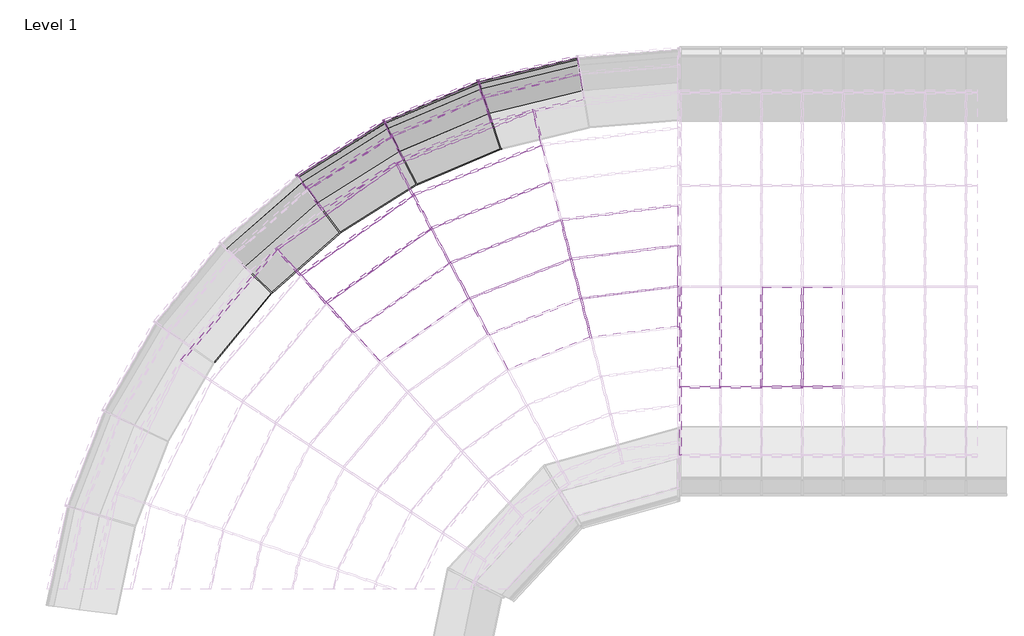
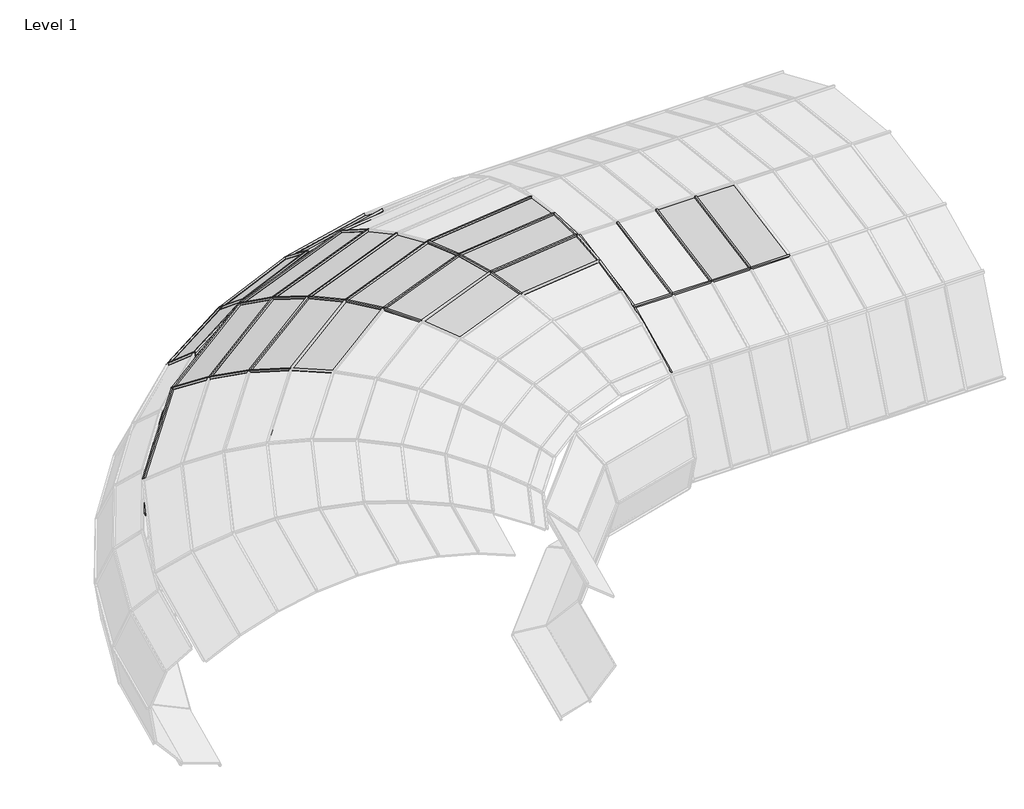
# One storey, part 16 of 23: 71 members, 31 plates.
"""IFC4 building model written with IfcOpenShell, lengths in millimetres."""

from ifc_helpers import new_model, si_unit, origin, place, context, project, spatial, transform, mapped, element, save
from components import member_6c4aaba8, member_0ea93e7c, member_bc92414a, member_01d9c279, member_f1f58849, member_12c77cbe, member_302b4213, member_af15374c, member_9c203333, member_86c07ba8, member_0e8a41c0, member_f532ae18, member_ff5bcfe9, member_5080b2ef, member_3e1f1dd8, member_d6b8231b, member_8c9da58c, member_391bee44, member_01ebdf2a, member_0cd36c09, member_e4cc2466, member_7149052c, member_309acb9e, member_fc38b671, member_bfbbd4af, member_1d69e541, member_a1b02127, system_panel_glazed_6e806f8e, system_panel_glazed_dfe8d515, system_panel_glazed_f0cf6c0b, system_panel_glazed_2b57bb89, system_panel_glazed_39caee5c, system_panel_glazed_2fe36e08, system_panel_glazed_8ac96967, system_panel_glazed_5e26bc8e, system_panel_glazed_f7be4813, system_panel_glazed_847a2d71, system_panel_glazed_5b1ce257, system_panel_glazed_11c8000a, system_panel_glazed_7bf4cd1b, system_panel_glazed_aea5d21f, system_panel_glazed_9f229a92

model = new_model("IFC4")

# Units and contexts
model_context = context("Model", 3, world=origin())
ifc_project = project(units=[si_unit("LENGTHUNIT", "METRE", prefix="MILLI")], contexts=[model_context])

# Site, building, storey
site = spatial("IfcSite", under=ifc_project)
building = spatial("IfcBuilding", under=site)
storey = spatial("IfcBuildingStorey", under=building, Name="Level 1", Elevation=0.0)

# Members
placement = place(None, origin())
member_shape = member_6c4aaba8(model_context)
element("IfcMember", 1, ObjectType="Rectangular Mullion : 1\" Square", at=placement, inside=storey, context=model_context, shape_type="MappedRepresentation", body=[
    mapped(member_shape, transform((-13870.6040784, 6009.9492025, 2378.3537392), x_axis=(0.328579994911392, -0.843854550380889, 0.424198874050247), y_axis=(-0.15391787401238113, 0.3952897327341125, 0.9055690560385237), z_axis=(-0.9318500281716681, -0.36284366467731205, 0.0))),
])
element("IfcMember", 2, ObjectType="Rectangular Mullion : 1\" Square", at=placement, inside=storey, context=model_context, shape_type="MappedRepresentation", body=[
    mapped(member_shape, transform((-15552.429602, 4815.9839844, 2378.3537392), x_axis=(0.5253290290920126, -0.7376209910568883, 0.424198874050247), y_axis=(-0.24608171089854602, 0.34552637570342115, 0.9055690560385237), z_axis=(-0.8145386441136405, -0.5801092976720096, 0.0))),
])
member_2_shape = member_0ea93e7c(model_context)
element("IfcMember", 3, ObjectType="Rectangular Mullion : 1\" Square", at=placement, inside=storey, context=model_context, shape_type="MappedRepresentation", body=[
    mapped(member_2_shape, transform((-13322.0782596, 4994.0562422, 2763.3769688), x_axis=(0.3555541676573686, -0.9131292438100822, 0.19943976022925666), y_axis=(-0.0723654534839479, 0.18584794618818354, 0.9799100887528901), z_axis=(-0.9318500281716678, -0.36284366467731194, 0.0))),
])
member_3_shape = member_bc92414a(model_context)
element("IfcMember", 4, ObjectType="Rectangular Mullion : 1\" Square", at=placement, inside=storey, context=model_context, shape_type="MappedRepresentation", body=[
    mapped(member_3_shape, transform((-11516.7637039, 5051.1067685, 2850.17796), x_axis=(0.12303904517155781, -0.9889921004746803, 0.08219500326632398), y_axis=(-0.010147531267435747, 0.08156620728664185, 0.9966162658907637), z_axis=(-0.9923499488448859, -0.12345679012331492, 0.0))),
])
member_4_shape = member_01d9c279(model_context)
element("IfcMember", 5, ObjectType="Rectangular Mullion : 1\" Square", at=placement, inside=storey, context=model_context, shape_type="MappedRepresentation", body=[
    mapped(member_4_shape, transform((-13035.4016564, 4463.1190773, 2850.17796), x_axis=(0.3616158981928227, -0.9286968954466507, 0.08219500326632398), y_axis=(-0.029823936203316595, 0.07659341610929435, 0.9966162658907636), z_axis=(-0.9318500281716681, -0.36284366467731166, 0.0))),
])
member_5_shape = member_f1f58849(model_context)
element("IfcMember", 6, ObjectType="Rectangular Mullion : 1\" Square", at=placement, inside=storey, context=model_context, shape_type="MappedRepresentation", body=[
    mapped(member_5_shape, transform((-11367.4380098, 4460.252916, 2864.5209769), x_axis=(0.12337601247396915, -0.991700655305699, -0.03616863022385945), y_axis=(0.004465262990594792, -0.03589193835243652, 0.9993457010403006), z_axis=(-0.992349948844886, -0.12345679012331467, 0.0))),
])
member_6_shape = member_12c77cbe(model_context)
element("IfcMember", 7, ObjectType="Rectangular Mullion : 1\" Square", at=placement, inside=storey, context=model_context, shape_type="MappedRepresentation", body=[
    mapped(member_6_shape, transform((-13601.8055633, 5512.1230112, 2605.3528615), x_axis=(0.34449616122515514, -0.8847302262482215, 0.31396627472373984), y_axis=(-0.11392067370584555, 0.2925694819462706, 0.9494341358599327), z_axis=(-0.9318500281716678, -0.3628436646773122, 0.0))),
])
element("IfcMember", 8, ObjectType="Rectangular Mullion : 1\" Square", at=placement, inside=storey, context=model_context, shape_type="MappedRepresentation", body=[
    mapped(member_6_shape, transform((-15169.845212, 4399.1953773, 2605.3528615), x_axis=(0.5507755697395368, -0.7733507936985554, 0.3139662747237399), y_axis=(-0.18213475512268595, 0.25573766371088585, 0.9494341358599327), z_axis=(-0.8145386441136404, -0.5801092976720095, 0.0))),
])
member_7_shape = member_302b4213(model_context)
element("IfcMember", 9, ObjectType="Rectangular Mullion : 1\" Square", at=placement, inside=storey, context=model_context, shape_type="MappedRepresentation", body=[
    mapped(member_7_shape, transform((-11664.6087907, 5636.1021345, 2763.3769688), x_axis=(0.12097655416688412, -0.9724137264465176, 0.19943976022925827), y_axis=(-0.024622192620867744, 0.19791403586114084, 0.9799100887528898), z_axis=(-0.992349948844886, -0.12345679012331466, 0.0))),
])
member_8_shape = member_af15374c(model_context)
element("IfcMember", 10, ObjectType="Rectangular Mullion : 1\" Square", at=placement, inside=storey, context=model_context, shape_type="MappedRepresentation", body=[
    mapped(member_8_shape, transform((-12102.9489621, 7267.6622372, 2085.6089632), x_axis=(-0.3177002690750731, 0.8159133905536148, -0.48306508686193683), y_axis=(-0.17527710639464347, 0.4501442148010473, 0.8755844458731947), z_axis=(0.9318500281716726, 0.3628436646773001, 0.0))),
])
element("IfcMember", 11, ObjectType="Rectangular Mullion : 1\" Square", at=placement, inside=storey, context=model_context, shape_type="MappedRepresentation", body=[
    mapped(member_8_shape, transform((-14146.8289283, 6468.4770808, 2085.6089632), x_axis=(-0.507934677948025, 0.7131973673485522, -0.48306508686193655), y_axis=(-0.280230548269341, 0.39347518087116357, 0.8755844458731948), z_axis=(0.8145386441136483, 0.5801092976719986, 0.0))),
])
element("IfcMember", 12, ObjectType="Rectangular Mullion : 1\" Square", at=placement, inside=storey, context=model_context, shape_type="MappedRepresentation", body=[
    mapped(member_8_shape, transform((-15932.5848922, 5192.8525797, 2085.6089632), x_axis=(-0.6672021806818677, 0.5670003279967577, -0.48306508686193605), y_axis=(-0.36809936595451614, 0.31281741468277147, 0.8755844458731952), z_axis=(0.6475678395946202, 0.7620078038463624, 0.0))),
])
member_9_shape = member_9c203333(model_context)
element("IfcMember", 13, ObjectType="Rectangular Mullion : 1\" Square", at=placement, inside=storey, context=model_context, shape_type="MappedRepresentation", body=[
    mapped(member_9_shape, transform((-12588.5806813, 6676.4681732, 0.0), x_axis=(0.3741630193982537, -0.8837244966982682, -0.2811281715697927), y_axis=(-0.10960824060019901, 0.2588804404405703, -0.959670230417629), z_axis=(0.9208626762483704, 0.3898870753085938, 0.0))),
])
element("IfcMember", 14, ObjectType="Rectangular Mullion : 1\" Square", at=placement, inside=storey, context=model_context, shape_type="MappedRepresentation", body=[
    mapped(member_9_shape, transform((-13834.1073019, 6146.9205679, 0.0), x_axis=(0.5103428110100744, -0.8127220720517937, -0.2811281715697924), y_axis=(-0.14950108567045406, 0.23808081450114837, -0.9596702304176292), z_axis=(0.8468764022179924, 0.5317897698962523, 0.0))),
])
element("IfcMember", 15, ObjectType="Rectangular Mullion : 1\" Square", at=placement, inside=storey, context=model_context, shape_type="MappedRepresentation", body=[
    mapped(member_9_shape, transform((-14979.2117366, 5425.4685167, 0.0), x_axis=(0.6334525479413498, -0.7209055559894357, -0.2811281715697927), y_axis=(-0.18556515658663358, 0.21118385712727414, -0.959670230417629), z_axis=(0.7512013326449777, 0.6600731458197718, 0.0))),
])
element("IfcMember", 16, ObjectType="Rectangular Mullion : 1\" Square", at=placement, inside=storey, context=model_context, shape_type="MappedRepresentation", body=[
    mapped(member_9_shape, transform((-15994.5674676, 4530.5886543, 0.0), x_axis=(0.7403393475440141, -0.6106264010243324, -0.2811281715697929), y_axis=(-0.21687684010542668, 0.17887840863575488, -0.9596702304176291), z_axis=(0.6362877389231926, 0.7714518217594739, 0.0))),
])
member_10_shape = member_86c07ba8(model_context)
element("IfcMember", 17, ObjectType="Rectangular Mullion : 1\" Square", at=placement, inside=storey, context=model_context, shape_type="MappedRepresentation", body=[
    mapped(member_10_shape, transform((-12748.8495304, 7239.8248197, 170.8694653), x_axis=(-0.20088097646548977, 0.8197872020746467, 0.5362795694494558), y_axis=(-0.12763412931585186, 0.520869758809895, -0.8440404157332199), z_axis=(-0.9712653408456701, -0.23799923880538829, 0.0))),
])
element("IfcMember", 18, ObjectType="Rectangular Mullion : 1\" Square", at=placement, inside=storey, context=model_context, shape_type="MappedRepresentation", body=[
    mapped(member_10_shape, transform((-14082.1900751, 6677.4973793, 170.8694653), x_axis=(-0.3290804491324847, 0.7772453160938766, 0.5362795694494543), y_axis=(-0.20908847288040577, 0.49383983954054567, -0.8440404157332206), z_axis=(-0.9208626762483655, -0.3898870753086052, 0.0))),
])
element("IfcMember", 19, ObjectType="Rectangular Mullion : 1\" Square", at=placement, inside=storey, context=model_context, shape_type="MappedRepresentation", body=[
    mapped(member_10_shape, transform((-15308.754949, 5909.6772385, 170.8694653), x_axis=(-0.44885205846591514, 0.7147979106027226, 0.536279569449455), y_axis=(-0.28518798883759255, 0.4541625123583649, -0.8440404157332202), z_axis=(-0.8468764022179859, -0.5317897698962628, 0.0))),
])
member_11_shape = member_0e8a41c0(model_context)
element("IfcMember", 20, ObjectType="Rectangular Mullion : 1\" Square", at=placement, inside=storey, context=model_context, shape_type="MappedRepresentation", body=[
    mapped(member_11_shape, transform((-12875.2293221, 7620.6688342, 629.7792003), x_axis=(-0.10050189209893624, 0.4101441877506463, 0.9064662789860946), y_axis=(-0.21573828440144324, 0.8804192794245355, -0.42227820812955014), z_axis=(-0.9712653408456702, -0.23799923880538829, 0.0))),
])
element("IfcMember", 21, ObjectType="Rectangular Mullion : 1\" Square", at=placement, inside=storey, context=model_context, shape_type="MappedRepresentation", body=[
    mapped(member_11_shape, transform((-14267.7034794, 7033.3046192, 629.7792003), x_axis=(-0.16464081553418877, 0.38886024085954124, 0.9064662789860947), y_axis=(-0.35341948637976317, 0.8347309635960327, -0.42227820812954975), z_axis=(-0.9208626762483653, -0.3898870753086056, 0.0))),
])
element("IfcMember", 22, ObjectType="Rectangular Mullion : 1\" Square", at=placement, inside=storey, context=model_context, shape_type="MappedRepresentation", body=[
    mapped(member_11_shape, transform((-15548.650904, 6231.3353582, 629.7792003), x_axis=(-0.22456323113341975, 0.3576174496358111, 0.9064662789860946), y_axis=(-0.4820494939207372, 0.7676649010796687, -0.4222782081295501), z_axis=(-0.8468764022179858, -0.5317897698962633, 0.0))),
])
member_12_shape = member_f532ae18(model_context)
element("IfcMember", 23, ObjectType="Rectangular Mullion : 1\" Square", at=placement, inside=storey, context=model_context, shape_type="MappedRepresentation", body=[
    mapped(member_12_shape, transform((-12903.9730127, 7707.2876077, 1232.5089476), x_axis=(0.031882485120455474, -0.13011114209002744, 0.9909866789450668), y_axis=(-0.2358540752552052, 0.962511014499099, 0.13396044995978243), z_axis=(-0.9712653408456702, -0.23799923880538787, 0.0))),
])
element("IfcMember", 24, ObjectType="Rectangular Mullion : 1\" Square", at=placement, inside=storey, context=model_context, shape_type="MappedRepresentation", body=[
    mapped(member_12_shape, transform((-14309.8964585, 7114.2290542, 1232.5089476), x_axis=(0.052229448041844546, -0.12335917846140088, 0.9909866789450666), y_axis=(-0.3863728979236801, 0.9125626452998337, 0.13396044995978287), z_axis=(-0.9208626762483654, -0.38988707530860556, 0.0))),
])
element("IfcMember", 25, ObjectType="Rectangular Mullion : 1\" Square", at=placement, inside=storey, context=model_context, shape_type="MappedRepresentation", body=[
    mapped(member_12_shape, transform((-15603.2125948, 6304.4929522, 1232.5089476), x_axis=(0.07123879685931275, -0.1134479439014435, 0.9909866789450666), y_axis=(-0.5269965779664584, 0.8392432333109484, 0.1339604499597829), z_axis=(-0.846876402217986, -0.5317897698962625, 0.0))),
])
member_13_shape = member_ff5bcfe9(model_context)
element("IfcMember", 26, ObjectType="Rectangular Mullion : 1\" Square", at=placement, inside=storey, context=model_context, shape_type="MappedRepresentation", body=[
    mapped(member_13_shape, transform((-12826.0474045, 7472.4597045, 1789.6405438), x_axis=(0.15408048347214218, -0.6287962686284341, 0.7621512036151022), y_axis=(-0.1813914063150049, 0.7402510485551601, 0.6473990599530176), z_axis=(-0.9712653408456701, -0.23799923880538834, 0.0))),
])
element("IfcMember", 27, ObjectType="Rectangular Mullion : 1\" Square", at=placement, inside=storey, context=model_context, shape_type="MappedRepresentation", body=[
    mapped(member_13_shape, transform((-14195.5091448, 6894.8387923, 1789.6405438), x_axis=(0.2524125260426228, -0.5961656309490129, 0.7621512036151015), y_axis=(-0.29715290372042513, 0.7018365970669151, 0.6473990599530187), z_axis=(-0.9208626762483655, -0.3898870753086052, 0.0))),
])
element("IfcMember", 28, ObjectType="Rectangular Mullion : 1\" Square", at=placement, inside=storey, context=model_context, shape_type="MappedRepresentation", body=[
    mapped(member_13_shape, transform((-15455.2930741, 6106.1589916, 1789.6405438), x_axis=(0.34428019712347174, -0.548266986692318, 0.7621512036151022), y_axis=(-0.4053042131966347, 0.6454478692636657, 0.6473990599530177), z_axis=(-0.8468764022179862, -0.5317897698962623, 0.0))),
])
member_14_shape = member_5080b2ef(model_context)
element("IfcMember", 29, ObjectType="Rectangular Mullion : 1\" Square", at=placement, inside=storey, context=model_context, shape_type="MappedRepresentation", body=[
    mapped(member_14_shape, transform((-12700.4125264, 7093.8604783, 2085.6089632), x_axis=(0.19091613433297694, -0.7791210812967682, 0.5970941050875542), y_axis=(-0.14210794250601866, 0.5799368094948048, 0.8021711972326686), z_axis=(-0.9712653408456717, -0.23799923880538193, 0.0))),
])
element("IfcMember", 30, ObjectType="Rectangular Mullion : 1\" Square", at=placement, inside=storey, context=model_context, shape_type="MappedRepresentation", body=[
    mapped(member_14_shape, transform((-14011.0892022, 6541.1287679, 2085.6089632), x_axis=(0.3127561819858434, -0.738689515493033, 0.5970941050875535), y_axis=(-0.23279927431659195, 0.5498416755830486, 0.802171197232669), z_axis=(-0.9208626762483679, -0.3898870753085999, 0.0))),
])
element("IfcMember", 31, ObjectType="Rectangular Mullion : 1\" Square", at=placement, inside=storey, context=model_context, shape_type="MappedRepresentation", body=[
    mapped(member_14_shape, transform((-15216.8111249, 5786.396804, 2085.6089632), x_axis=(0.42658643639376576, -0.6793398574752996, 0.5970941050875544), y_axis=(-0.3175285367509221, 0.5056649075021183, 0.8021711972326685), z_axis=(-0.8468764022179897, -0.531789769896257, 0.0))),
])
member_15_shape = member_3e1f1dd8(model_context)
element("IfcMember", 32, ObjectType="Rectangular Mullion : 1\" Square", at=placement, inside=storey, context=model_context, shape_type="MappedRepresentation", body=[
    mapped(member_15_shape, transform((-9303.3499814, 3134.3722562, 2579.8319299), x_axis=(0.0, -0.9436447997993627, -0.33095995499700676), y_axis=(0.0, -0.33095995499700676, 0.9436447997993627), z_axis=(-1.0, 0.0, 0.0))),
])
element("IfcMember", 33, ObjectType="Rectangular Mullion : 1\" Square", at=placement, inside=storey, context=model_context, shape_type="MappedRepresentation", body=[
    mapped(member_15_shape, transform((-8693.7499814, 3134.3722562, 2579.8319299), x_axis=(0.0, -0.9436447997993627, -0.33095995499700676), y_axis=(0.0, -0.33095995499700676, 0.9436447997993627), z_axis=(-1.0, 0.0, 0.0))),
])
element("IfcMember", 34, ObjectType="Rectangular Mullion : 1\" Square", at=placement, inside=storey, context=model_context, shape_type="MappedRepresentation", body=[
    mapped(member_15_shape, transform((-8084.1499814, 3134.3722562, 2579.8319299), x_axis=(0.0, -0.9436447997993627, -0.33095995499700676), y_axis=(0.0, -0.33095995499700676, 0.9436447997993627), z_axis=(-1.0, 0.0, 0.0))),
])
element("IfcMember", 35, ObjectType="Rectangular Mullion : 1\" Square", at=placement, inside=storey, context=model_context, shape_type="MappedRepresentation", body=[
    mapped(member_15_shape, transform((-9912.9499814, 3134.3722562, 2579.8319299), x_axis=(0.0, -0.9436447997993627, -0.33095995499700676), y_axis=(0.0, -0.33095995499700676, 0.9436447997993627), z_axis=(-1.0, 0.0, 0.0))),
])
member_16_shape = member_d6b8231b(model_context)
element("IfcMember", 36, ObjectType="Rectangular Mullion : 1\" Square", at=placement, inside=storey, context=model_context, shape_type="MappedRepresentation", body=[
    mapped(member_16_shape, transform((-12576.8857253, 6681.4197391, 0.0), x_axis=(-0.9491072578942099, -0.3149530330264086, 0.0), y_axis=(-0.08828060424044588, 0.26603256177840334, -0.959913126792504), z_axis=(0.3023275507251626, -0.9110605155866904, -0.2802976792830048))),
])
element("IfcMember", 37, ObjectType="Rectangular Mullion : 1\" Square", at=placement, inside=storey, context=model_context, shape_type="MappedRepresentation", body=[
    mapped(member_16_shape, transform((-13823.3519715, 6153.674298, 0.0), x_axis=(-0.8867127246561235, -0.46232082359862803, 0.0), y_axis=(-0.129587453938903, 0.2485435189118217, -0.959913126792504), z_axis=(0.4437878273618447, -0.85116718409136, -0.2802976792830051))),
])
element("IfcMember", 38, ObjectType="Rectangular Mullion : 1\" Square", at=placement, inside=storey, context=model_context, shape_type="MappedRepresentation", body=[
    mapped(member_16_shape, transform((-15986.4866134, 4540.3860924, 0.0), x_axis=(-0.6959761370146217, -0.7180649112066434, 0.0), y_axis=(-0.20127192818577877, 0.19508049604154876, -0.9599131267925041), z_axis=(0.6892799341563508, -0.6680766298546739, -0.2802976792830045))),
])
element("IfcMember", 39, ObjectType="Rectangular Mullion : 1\" Square", at=placement, inside=storey, context=model_context, shape_type="MappedRepresentation", body=[
    mapped(member_16_shape, transform((-14969.6714797, 5433.8514456, 0.0), x_axis=(-0.8016091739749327, -0.5978484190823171, 0.0), y_axis=(-0.16757552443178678, 0.2246891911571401, -0.9599131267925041), z_axis=(0.5738825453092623, -0.769475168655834, -0.28029767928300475))),
])
member_17_shape = member_8c9da58c(model_context)
element("IfcMember", 40, ObjectType="Rectangular Mullion : 1\" Square", at=placement, inside=storey, context=model_context, shape_type="MappedRepresentation", body=[
    mapped(member_17_shape, transform((-12761.1846002, 7236.8022294, 170.8694653), x_axis=(-0.9491072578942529, -0.31495303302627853, 0.0), y_axis=(-0.23709811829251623, 0.7144923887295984, -0.658243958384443), z_axis=(0.20731593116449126, -0.6247441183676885, -0.7528046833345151))),
])
element("IfcMember", 41, ObjectType="Rectangular Mullion : 1\" Square", at=placement, inside=storey, context=model_context, shape_type="MappedRepresentation", body=[
    mapped(member_17_shape, transform((-12887.5643919, 7617.6462439, 629.7792003), x_axis=(-0.9491072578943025, -0.3149530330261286, 0.0), y_axis=(-0.3114034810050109, 0.9384107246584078, -0.14971033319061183), z_axis=(0.047151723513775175, -0.14209116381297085, -0.9887299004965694))),
])
element("IfcMember", 42, ObjectType="Rectangular Mullion : 1\" Square", at=placement, inside=storey, context=model_context, shape_type="MappedRepresentation", body=[
    mapped(member_17_shape, transform((-14093.8850311, 6672.5458134, 170.8694653), x_axis=(-0.8867127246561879, -0.4623208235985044, 0.0), y_axis=(-0.3480372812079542, 0.6675214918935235, -0.6582439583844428), z_axis=(0.30431988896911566, -0.5836732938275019, -0.7528046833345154))),
])
element("IfcMember", 43, ObjectType="Rectangular Mullion : 1\" Square", at=placement, inside=storey, context=model_context, shape_type="MappedRepresentation", body=[
    mapped(member_17_shape, transform((-14279.3984354, 7028.3530534, 629.7792003), x_axis=(-0.8867127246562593, -0.4623208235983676, 0.0), y_axis=(-0.45711042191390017, 0.8767193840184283, -0.14971033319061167), z_axis=(0.06921420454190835, -0.1327500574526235, -0.9887299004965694))),
])
element("IfcMember", 44, ObjectType="Rectangular Mullion : 1\" Square", at=placement, inside=storey, context=model_context, shape_type="MappedRepresentation", body=[
    mapped(member_17_shape, transform((-15319.5102793, 5902.9235085, 170.8694653), x_axis=(-0.8016091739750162, -0.5978484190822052, 0.0), y_axis=(-0.450063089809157, 0.6034551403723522, -0.6582439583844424), z_axis=(0.3935301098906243, -0.5276543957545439, -0.7528046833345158))),
])
element("IfcMember", 45, ObjectType="Rectangular Mullion : 1\" Square", at=placement, inside=storey, context=model_context, shape_type="MappedRepresentation", body=[
    mapped(member_17_shape, transform((-15559.4062343, 6224.5816281, 629.7792003), x_axis=(-0.8016091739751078, -0.5978484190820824, 0.0), y_axis=(-0.5911106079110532, 0.7925749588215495, -0.149710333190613), z_axis=(0.08950408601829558, -0.12000917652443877, -0.9887299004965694))),
])
member_18_shape = member_391bee44(model_context)
element("IfcMember", 46, ObjectType="Rectangular Mullion : 1\" Square", at=placement, inside=storey, context=model_context, shape_type="MappedRepresentation", body=[
    mapped(member_18_shape, transform((-12916.3080825, 7704.2650174, 1232.5089476), x_axis=(-0.9491072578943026, -0.314953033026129, 0.0), y_axis=(-0.2878449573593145, 0.867417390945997, 0.40587233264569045), z_axis=(-0.1278307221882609, 0.38521637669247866, -0.9139297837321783))),
])
element("IfcMember", 47, ObjectType="Rectangular Mullion : 1\" Square", at=placement, inside=storey, context=model_context, shape_type="MappedRepresentation", body=[
    mapped(member_18_shape, transform((-14321.5914145, 7109.2774884, 1232.5089476), x_axis=(-0.8867127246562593, -0.46232082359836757, 0.0), y_axis=(-0.42252877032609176, 0.8103931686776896, 0.4058723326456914), z_axis=(-0.18764323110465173, 0.35989216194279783, -0.9139297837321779))),
])
element("IfcMember", 48, ObjectType="Rectangular Mullion : 1\" Square", at=placement, inside=storey, context=model_context, shape_type="MappedRepresentation", body=[
    mapped(member_18_shape, transform((-15613.9679251, 6297.7392221, 1232.5089476), x_axis=(-0.8016091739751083, -0.5978484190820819, 0.0), y_axis=(-0.5463914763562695, 0.7326144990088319, 0.4058723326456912), z_axis=(-0.24265013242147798, 0.32535098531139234, -0.9139297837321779))),
])
member_19_shape = member_01ebdf2a(model_context)
element("IfcMember", 49, ObjectType="Rectangular Mullion : 1\" Square", at=placement, inside=storey, context=model_context, shape_type="MappedRepresentation", body=[
    mapped(member_19_shape, transform((-12838.3824743, 7469.4371141, 1789.6405438), x_axis=(-0.9491072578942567, -0.3149530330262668, 0.0), y_axis=(-0.18766792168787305, 0.565535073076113, 0.8030883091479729), z_axis=(-0.25293509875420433, 0.7622169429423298, -0.5958600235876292))),
])
element("IfcMember", 50, ObjectType="Rectangular Mullion : 1\" Square", at=placement, inside=storey, context=model_context, shape_type="MappedRepresentation", body=[
    mapped(member_19_shape, transform((-14207.2041008, 6889.8872265, 1789.6405438), x_axis=(-0.8867127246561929, -0.46232082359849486, 0.0), y_axis=(-0.27547849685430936, 0.5283566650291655, 0.8030883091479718), z_axis=(-0.3712844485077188, 0.7121086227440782, -0.5958600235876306))),
])
element("IfcMember", 51, ObjectType="Rectangular Mullion : 1\" Square", at=placement, inside=storey, context=model_context, shape_type="MappedRepresentation", body=[
    mapped(member_19_shape, transform((-15466.0484044, 6099.4052615, 1789.6405438), x_axis=(-0.8016091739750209, -0.5978484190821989, 0.0), y_axis=(-0.35623397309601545, 0.4776468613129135, 0.8030883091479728), z_axis=(-0.4801250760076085, 0.6437629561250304, -0.5958600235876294))),
])
member_20_shape = member_0cd36c09(model_context)
element("IfcMember", 52, ObjectType="Rectangular Mullion : 1\" Square", at=placement, inside=storey, context=model_context, shape_type="MappedRepresentation", body=[
    mapped(member_20_shape, transform((-11677.211635, 5634.5342332, 2763.3769688), x_axis=(-0.9695168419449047, -0.24502467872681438, 0.0), y_axis=(-0.03488908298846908, 0.13804957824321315, 0.9898106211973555), z_axis=(-0.24252802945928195, 0.9596380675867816, -0.14239007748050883))),
])
element("IfcMember", 53, ObjectType="Rectangular Mullion : 1\" Square", at=placement, inside=storey, context=model_context, shape_type="MappedRepresentation", body=[
    mapped(member_20_shape, transform((-11529.3665483, 5049.5388672, 2850.17796), x_axis=(-0.9695168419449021, -0.24502467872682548, 0.0), y_axis=(-0.005765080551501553, 0.02281134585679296, 0.9997231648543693), z_axis=(-0.24495684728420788, 0.9692484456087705, -0.023528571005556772))),
])
element("IfcMember", 54, ObjectType="Rectangular Mullion : 1\" Square", at=placement, inside=storey, context=model_context, shape_type="MappedRepresentation", body=[
    mapped(member_20_shape, transform((-13882.4385737, 6005.341088, 2378.3537392), x_axis=(-0.879925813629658, -0.4751111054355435, 0.0), y_axis=(-0.17691896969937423, 0.32766139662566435, 0.9280828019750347), z_axis=(-0.4409424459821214, 0.8166440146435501, -0.37237388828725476))),
])
element("IfcMember", 55, ObjectType="Rectangular Mullion : 1\" Square", at=placement, inside=storey, context=model_context, shape_type="MappedRepresentation", body=[
    mapped(member_20_shape, transform((-13613.6400587, 5507.5148967, 2605.3528615), x_axis=(-0.8799258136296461, -0.4751111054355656, 0.0), y_axis=(-0.12316110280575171, 0.22809955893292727, 0.9658167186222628), z_axis=(-0.4588702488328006, 0.8498470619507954, -0.25922589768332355))),
])
element("IfcMember", 56, ObjectType="Rectangular Mullion : 1\" Square", at=placement, inside=storey, context=model_context, shape_type="MappedRepresentation", body=[
    mapped(member_20_shape, transform((-13333.912755, 4989.4481277, 2763.3769688), x_axis=(-0.8799258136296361, -0.47511110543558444, 0.0), y_axis=(-0.0676511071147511, 0.12529270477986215, 0.9898106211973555), z_axis=(-0.4702700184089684, 0.870959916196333, -0.14239007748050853))),
])
element("IfcMember", 57, ObjectType="Rectangular Mullion : 1\" Square", at=placement, inside=storey, context=model_context, shape_type="MappedRepresentation", body=[
    mapped(member_20_shape, transform((-13047.2361517, 4458.5109628, 2850.17796), x_axis=(-0.8799258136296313, -0.4751111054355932, 0.0), y_axis=(-0.01117868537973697, 0.02070339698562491, 0.9997231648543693), z_axis=(-0.47497957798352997, 0.8796822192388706, -0.023528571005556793))),
])
element("IfcMember", 58, ObjectType="Rectangular Mullion : 1\" Square", at=placement, inside=storey, context=model_context, shape_type="MappedRepresentation", body=[
    mapped(member_20_shape, transform((-15562.7742428, 4808.6165963, 2378.3537392), x_axis=(-0.7366889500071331, -0.6762317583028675, 0.0), y_axis=(-0.25181104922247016, 0.27432372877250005, 0.9280828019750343), z_axis=(-0.627599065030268, 0.6837083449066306, -0.3723738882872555))),
])
element("IfcMember", 59, ObjectType="Rectangular Mullion : 1\" Square", at=placement, inside=storey, context=model_context, shape_type="MappedRepresentation", body=[
    mapped(member_20_shape, transform((-15180.1898528, 4391.8279892, 2605.3528615), x_axis=(-0.7366889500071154, -0.6762317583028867, 0.0), y_axis=(-0.17529678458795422, 0.19096885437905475, 0.9658167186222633), z_axis=(-0.6531159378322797, 0.7115065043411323, -0.2592258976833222))),
])
element("IfcMember", 60, ObjectType="Rectangular Mullion : 1\" Square", at=placement, inside=storey, context=model_context, shape_type="MappedRepresentation", body=[
    mapped(member_20_shape, transform((-11380.0408541, 4458.6850148, 2864.5209769), x_axis=(-0.9695168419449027, -0.24502467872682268, 0.0), y_axis=(0.023440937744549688, -0.09275140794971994, 0.9954133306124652), z_axis=(-0.24390083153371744, 0.9650699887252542, 0.09566766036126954))),
])
member_21_shape = member_e4cc2466(model_context)
element("IfcMember", 61, ObjectType="Rectangular Mullion : 1\" Square", at=placement, inside=storey, context=model_context, shape_type="MappedRepresentation", body=[
    mapped(member_21_shape, transform((-15924.3607807, 5202.5300788, 2085.6089632), x_axis=(-0.7366889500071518, -0.6762317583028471, 0.0), y_axis=(-0.3247429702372, 0.3537759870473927, 0.8771456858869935), z_axis=(-0.5931537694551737, 0.6461835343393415, -0.4802243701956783))),
])
element("IfcMember", 62, ObjectType="Rectangular Mullion : 1\" Square", at=placement, inside=storey, context=model_context, shape_type="MappedRepresentation", body=[
    mapped(member_21_shape, transform((-14136.4842875, 6475.8444688, 2085.6089632), x_axis=(-0.8799258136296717, -0.47511110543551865, 0.0), y_axis=(-0.22815993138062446, 0.4225618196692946, 0.8771456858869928), z_axis=(-0.4167416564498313, 0.771823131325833, -0.48022437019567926))),
])
element("IfcMember", 63, ObjectType="Rectangular Mullion : 1\" Square", at=placement, inside=storey, context=model_context, shape_type="MappedRepresentation", body=[
    mapped(member_21_shape, transform((-12091.1144667, 7272.2703517, 2085.6089632), x_axis=(-0.9695168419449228, -0.24502467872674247, 0.0), y_axis=(-0.11766682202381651, 0.46558561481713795, 0.877145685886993), z_axis=(-0.21492233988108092, 0.8504075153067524, -0.48022437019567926))),
])
member_22_shape = member_7149052c(model_context)
element("IfcMember", 64, ObjectType="Rectangular Mullion : 1\" Square", at=placement, inside=storey, context=model_context, shape_type="MappedRepresentation", body=[
    mapped(member_22_shape, transform((-9912.9499814, 4641.2036214, 2864.5209769), x_axis=(0.999995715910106, 6.887147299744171e-05, 0.0029263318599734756), y_axis=(-0.002927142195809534, 0.02352847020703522, 0.9997188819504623), z_axis=(0.0, -0.9997231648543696, 0.023528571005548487))),
])
member_23_shape = member_309acb9e(model_context)
element("IfcMember", 65, ObjectType="Rectangular Mullion : 1\" Square", at=placement, inside=storey, context=model_context, shape_type="MappedRepresentation", body=[
    mapped(member_23_shape, transform((-8693.7499814, 3146.8492645, 2582.2013738), x_axis=(1.0, 0.0, 0.0), y_axis=(0.0, -0.18657038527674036, 0.9824415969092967), z_axis=(0.0, -0.9824415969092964, -0.18657038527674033))),
])
element("IfcMember", 66, ObjectType="Rectangular Mullion : 1\" Square", at=placement, inside=storey, context=model_context, shape_type="MappedRepresentation", body=[
    mapped(member_23_shape, transform((-9303.3499814, 3146.8492645, 2582.2013738), x_axis=(1.0, 0.0, 0.0), y_axis=(0.0, -0.18657038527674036, 0.9824415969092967), z_axis=(0.0, -0.9824415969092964, -0.18657038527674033))),
])
element("IfcMember", 67, ObjectType="Rectangular Mullion : 1\" Square", at=placement, inside=storey, context=model_context, shape_type="MappedRepresentation", body=[
    mapped(member_23_shape, transform((-8084.1499814, 3146.8492645, 2582.2013738), x_axis=(1.0, 0.0, 0.0), y_axis=(0.0, -0.18657038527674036, 0.9824415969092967), z_axis=(0.0, -0.9824415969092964, -0.18657038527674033))),
])
member_24_shape = member_fc38b671(model_context)
element("IfcMember", 68, ObjectType="Rectangular Mullion : 1\" Square", at=placement, inside=storey, context=model_context, shape_type="MappedRepresentation", body=[
    mapped(member_24_shape, transform((-9912.9499814, 4034.3996551, 2806.2019711), x_axis=(0.9999291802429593, 0.001138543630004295, -0.011846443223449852), y_axis=(0.011901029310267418, -0.09566088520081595, 0.9953428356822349), z_axis=(0.0, -0.9954133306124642, -0.09566766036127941))),
])
member_25_shape = member_bfbbd4af(model_context)
element("IfcMember", 69, ObjectType="Rectangular Mullion : 1\" Square", at=placement, inside=storey, context=model_context, shape_type="MappedRepresentation", body=[
    mapped(member_25_shape, transform((-9912.9499814, 3438.8555488, 2676.0506073), x_axis=(0.9996474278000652, 0.005668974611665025, -0.025939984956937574), y_axis=(0.02655221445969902, -0.21342761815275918, 0.9765979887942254), z_axis=(0.0, -0.9769424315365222, -0.2135028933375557))),
])
member_26_shape = member_1d69e541(model_context)
element("IfcMember", 70, ObjectType="Rectangular Mullion : 1\" Square", at=placement, inside=storey, context=model_context, shape_type="MappedRepresentation", body=[
    mapped(member_26_shape, transform((-9912.9499814, 4619.1362416, 2861.7957532), x_axis=(-1.0, 0.0, 0.0), y_axis=(0.0, -0.18657038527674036, 0.9824415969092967), z_axis=(0.0, 0.9824415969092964, 0.18657038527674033))),
])
member_27_shape = member_a1b02127(model_context)
element("IfcMember", 71, ObjectType="Rectangular Mullion : 1\" Square", at=placement, inside=storey, context=model_context, shape_type="MappedRepresentation", body=[
    mapped(member_27_shape, transform((-9912.9499814, 3122.930794, 2574.3198574), x_axis=(-1.0, 0.0, 0.0), y_axis=(0.0, -0.4340214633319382, 0.9009025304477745), z_axis=(0.0, 0.9009025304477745, 0.4340214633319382))),
])

# Plates
system_panel_glazed_shape = system_panel_glazed_6e806f8e(model_context)
element("IfcPlate", 72, ObjectType="System Panel : Glazed", at=placement, inside=storey, context=model_context, shape_type="MappedRepresentation", body=[
    mapped(system_panel_glazed_shape, transform((-8681.0499814, 3882.992753, 2721.9985635), x_axis=(0.0, -0.9824415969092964, -0.18657038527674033), y_axis=(0.0, 0.18657038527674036, -0.9824415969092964), z_axis=(1.0, 0.0, 0.0))),
])
element("IfcPlate", 73, ObjectType="System Panel : Glazed", at=placement, inside=storey, context=model_context, shape_type="MappedRepresentation", body=[
    mapped(system_panel_glazed_shape, transform((-8071.4499814, 3882.992753, 2721.9985635), x_axis=(0.0, -0.9824415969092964, -0.18657038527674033), y_axis=(0.0, 0.18657038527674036, -0.9824415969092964), z_axis=(1.0, 0.0, 0.0))),
])
system_panel_glazed_2_shape = system_panel_glazed_dfe8d515(model_context)
element("IfcPlate", 74, ObjectType="System Panel : Glazed", at=placement, inside=storey, context=model_context, shape_type="MappedRepresentation", body=[
    mapped(system_panel_glazed_2_shape, transform((-13209.6225891, 6439.9936208, 7.1406556), x_axis=(-0.9208626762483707, -0.38988707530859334, 0.0), y_axis=(0.10960824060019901, -0.25888044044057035, 0.9596702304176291), z_axis=(-0.3741630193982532, 0.8837244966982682, 0.2811281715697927))),
])
element("IfcPlate", 75, ObjectType="System Panel : Glazed", at=placement, inside=storey, context=model_context, shape_type="MappedRepresentation", body=[
    mapped(system_panel_glazed_2_shape, transform((-14409.474433, 5814.4060125, 7.1406556), x_axis=(-0.8468764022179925, -0.5317897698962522, 0.0), y_axis=(0.1495010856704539, -0.23808081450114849, 0.9596702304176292), z_axis=(-0.5103428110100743, 0.8127220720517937, 0.2811281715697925))),
])
element("IfcPlate", 76, ObjectType="System Panel : Glazed", at=placement, inside=storey, context=model_context, shape_type="MappedRepresentation", body=[
    mapped(system_panel_glazed_2_shape, transform((-15494.1687412, 5005.4297702, 7.1406556), x_axis=(-0.7512013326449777, -0.6600731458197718, 0.0), y_axis=(0.18556515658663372, -0.21118385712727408, 0.959670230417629), z_axis=(-0.6334525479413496, 0.7209055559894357, 0.28112817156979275))),
])
system_panel_glazed_3_shape = system_panel_glazed_f0cf6c0b(model_context)
element("IfcPlate", 77, ObjectType="System Panel : Glazed", at=placement, inside=storey, context=model_context, shape_type="MappedRepresentation", body=[
    mapped(system_panel_glazed_3_shape, transform((-12060.3482303, 7417.1267927, 180.4433737), x_axis=(-0.9712653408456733, -0.23799923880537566, 0.0), y_axis=(0.17941597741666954, -0.7321894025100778, 0.6570453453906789), z_axis=(-0.1563762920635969, 0.6381653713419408, 0.7538510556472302))),
])
element("IfcPlate", 78, ObjectType="System Panel : Glazed", at=placement, inside=storey, context=model_context, shape_type="MappedRepresentation", body=[
    mapped(system_panel_glazed_3_shape, transform((-13430.788219, 6962.3581378, 180.4433737), x_axis=(-0.9208626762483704, -0.3898870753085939, 0.0), y_axis=(0.29391678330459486, -0.6941933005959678, 0.6570453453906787), z_axis=(-0.25617348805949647, 0.6050485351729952, 0.7538510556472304))),
])
element("IfcPlate", 79, ObjectType="System Panel : Glazed", at=placement, inside=storey, context=model_context, shape_type="MappedRepresentation", body=[
    mapped(system_panel_glazed_3_shape, transform((-14711.1351621, 6294.8014007, 180.4433737), x_axis=(-0.846876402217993, -0.5317897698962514, 0.0), y_axis=(0.4008902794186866, -0.6384186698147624, 0.6570453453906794), z_axis=(-0.3494099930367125, 0.556436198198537, 0.75385105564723))),
])
element("IfcPlate", 80, ObjectType="System Panel : Glazed", at=placement, inside=storey, context=model_context, shape_type="MappedRepresentation", body=[
    mapped(system_panel_glazed_3_shape, transform((-15868.5989347, 5431.5529386, 180.4433737), x_axis=(-0.751201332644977, -0.6600731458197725, 0.0), y_axis=(0.497596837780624, -0.5662939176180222, 0.6570453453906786), z_axis=(-0.43369798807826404, 0.49357333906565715, 0.7538510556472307))),
])
system_panel_glazed_4_shape = system_panel_glazed_2b57bb89(model_context)
element("IfcPlate", 81, ObjectType="System Panel : Glazed", at=placement, inside=storey, context=model_context, shape_type="MappedRepresentation", body=[
    mapped(system_panel_glazed_4_shape, transform((-12154.0080162, 7799.3486196, 642.3369711), x_axis=(-0.9712653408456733, -0.2379992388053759, 0.0), y_axis=(0.23533384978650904, -0.9603879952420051, 0.14924100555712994), z_axis=(-0.03551924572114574, 0.14495261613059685, 0.9888008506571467))),
])
element("IfcPlate", 82, ObjectType="System Panel : Glazed", at=placement, inside=storey, context=model_context, shape_type="MappedRepresentation", body=[
    mapped(system_panel_glazed_4_shape, transform((-13584.2203903, 7324.7450156, 642.3369711), x_axis=(-0.9208626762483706, -0.38988707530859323, 0.0), y_axis=(0.3855206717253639, -0.9105497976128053, 0.14924100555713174), z_axis=(-0.05818713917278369, 0.13743047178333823, 0.9888008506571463))),
])
element("IfcPlate", 83, ObjectType="System Panel : Glazed", at=placement, inside=storey, context=model_context, shape_type="MappedRepresentation", body=[
    mapped(system_panel_glazed_4_shape, transform((-14920.4102683, 6628.072477, 642.3369711), x_axis=(-0.8468764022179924, -0.5317897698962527, 0.0), y_axis=(0.525834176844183, -0.8373921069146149, 0.14924100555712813), z_axis=(-0.07936484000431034, 0.12638868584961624, 0.988800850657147))),
])
system_panel_glazed_5_shape = system_panel_glazed_39caee5c(model_context)
element("IfcPlate", 84, ObjectType="System Panel : Glazed", at=placement, inside=storey, context=model_context, shape_type="MappedRepresentation", body=[
    mapped(system_panel_glazed_5_shape, transform((-12173.9844027, 7880.8714513, 1244.1219817), x_axis=(-0.9712653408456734, -0.23799923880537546, 0.0), y_axis=(0.2176293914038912, -0.8881368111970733, -0.4047844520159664), z_axis=(0.09633839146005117, -0.3931531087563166, 0.9144121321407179))),
])
element("IfcPlate", 85, ObjectType="System Panel : Glazed", at=placement, inside=storey, context=model_context, shape_type="MappedRepresentation", body=[
    mapped(system_panel_glazed_5_shape, transform((-13616.9454317, 7402.0373165, 1244.1219817), x_axis=(-0.9208626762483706, -0.3898870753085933, 0.0), y_axis=(0.3565174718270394, -0.8420480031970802, -0.4047844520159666), z_axis=(0.15782022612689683, -0.37275089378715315, 0.9144121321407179))),
])
element("IfcPlate", 86, ObjectType="System Panel : Glazed", at=placement, inside=storey, context=model_context, shape_type="MappedRepresentation", body=[
    mapped(system_panel_glazed_5_shape, transform((-14965.0458649, 6699.1547648, 1244.1219817), x_axis=(-0.8468764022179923, -0.5317897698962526, 0.0), y_axis=(0.4862750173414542, -0.7743940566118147, -0.40478445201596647), z_axis=(0.21526023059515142, -0.34280240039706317, 0.9144121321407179))),
])
system_panel_glazed_6_shape = system_panel_glazed_2fe36e08(model_context)
element("IfcPlate", 87, ObjectType="System Panel : Glazed", at=placement, inside=storey, context=model_context, shape_type="MappedRepresentation", body=[
    mapped(system_panel_glazed_6_shape, transform((-12114.0863606, 7636.4299458, 1797.2236389), x_axis=(-0.9712653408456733, -0.23799923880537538, 0.0), y_axis=(0.1421079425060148, -0.5799368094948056, -0.8021711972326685), z_axis=(0.1909161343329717, -0.7791210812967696, 0.5970941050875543))),
])
element("IfcPlate", 88, ObjectType="System Panel : Glazed", at=placement, inside=storey, context=model_context, shape_type="MappedRepresentation", body=[
    mapped(system_panel_glazed_6_shape, transform((-13518.8212841, 7170.2808135, 1797.2236389), x_axis=(-0.9208626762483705, -0.38988707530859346, 0.0), y_axis=(0.23279927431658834, -0.5498416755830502, -0.8021711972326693), z_axis=(0.31275618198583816, -0.7386895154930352, 0.5970941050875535))),
])
element("IfcPlate", 89, ObjectType="System Panel : Glazed", at=placement, inside=storey, context=model_context, shape_type="MappedRepresentation", body=[
    mapped(system_panel_glazed_6_shape, transform((-14831.2086049, 6486.0186278, 1797.2236389), x_axis=(-0.8468764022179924, -0.5317897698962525, 0.0), y_axis=(0.31752853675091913, -0.5056649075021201, -0.8021711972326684), z_axis=(0.42658643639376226, -0.6793398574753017, 0.5970941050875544))),
])
system_panel_glazed_7_shape = system_panel_glazed_8ac96967(model_context)
element("IfcPlate", 90, ObjectType="System Panel : Glazed", at=placement, inside=storey, context=model_context, shape_type="MappedRepresentation", body=[
    mapped(system_panel_glazed_7_shape, transform((-13105.7297903, 6853.3332101, 2097.8788164), x_axis=(-0.9318500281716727, -0.36284366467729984, 0.0), y_axis=(0.17527710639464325, -0.4501442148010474, -0.8755844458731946), z_axis=(0.31770026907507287, -0.8159133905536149, 0.48306508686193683))),
])
element("IfcPlate", 91, ObjectType="System Panel : Glazed", at=placement, inside=storey, context=model_context, shape_type="MappedRepresentation", body=[
    mapped(system_panel_glazed_7_shape, transform((-15017.5209933, 5821.0720607, 2097.8788164), x_axis=(-0.814538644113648, -0.5801092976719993, 0.0), y_axis=(0.2802305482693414, -0.39347518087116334, -0.875584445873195), z_axis=(0.5079346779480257, -0.7131973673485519, 0.4830650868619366))),
])
system_panel_glazed_8_shape = system_panel_glazed_5e26bc8e(model_context)
element("IfcPlate", 92, ObjectType="System Panel : Glazed", at=placement, inside=storey, context=model_context, shape_type="MappedRepresentation", body=[
    mapped(system_panel_glazed_8_shape, transform((-12916.996061, 6368.6298846, 2383.1142391), x_axis=(-0.9318500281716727, -0.3628436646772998, 0.0), y_axis=(0.13600923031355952, -0.34929700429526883, -0.9270885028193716), z_axis=(0.3363881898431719, -0.8639074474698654, 0.37484251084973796))),
])
element("IfcPlate", 93, ObjectType="System Panel : Glazed", at=placement, inside=storey, context=model_context, shape_type="MappedRepresentation", body=[
    mapped(system_panel_glazed_8_shape, transform((-14715.7761875, 5397.3884446, 2383.1142391), x_axis=(-0.8145386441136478, -0.5801092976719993, 0.0), y_axis=(0.21744962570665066, -0.30532371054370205, -0.9270885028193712), z_axis=(0.5378126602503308, -0.7551494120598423, 0.3748425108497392))),
])
system_panel_glazed_9_shape = system_panel_glazed_f7be4813(model_context)
element("IfcPlate", 94, ObjectType="System Panel : Glazed", at=placement, inside=storey, context=model_context, shape_type="MappedRepresentation", body=[
    mapped(system_panel_glazed_9_shape, transform((-12713.1081596, 5845.007826, 2608.668686), x_axis=(-0.9318500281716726, -0.3628436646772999, 0.0), y_axis=(0.09473432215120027, -0.24329536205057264, -0.965314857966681), z_axis=(0.3502583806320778, -0.8995286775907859, 0.26108853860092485))),
])
element("IfcPlate", 95, ObjectType="System Panel : Glazed", at=placement, inside=storey, context=model_context, shape_type="MappedRepresentation", body=[
    mapped(system_panel_glazed_9_shape, transform((-14389.8031065, 4939.6856075, 2608.668686), x_axis=(-0.8145386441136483, -0.5801092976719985, 0.0), y_axis=(0.15145988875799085, -0.21266670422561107, -0.9653148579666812), z_axis=(0.5599881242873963, -0.7862862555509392, 0.26108853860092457))),
])
system_panel_glazed_10_shape = system_panel_glazed_847a2d71(model_context)
element("IfcPlate", 96, ObjectType="System Panel : Glazed", at=placement, inside=storey, context=model_context, shape_type="MappedRepresentation", body=[
    mapped(system_panel_glazed_10_shape, transform((-10799.8781303, 5731.0164828, 2765.1989775), x_axis=(-0.9923499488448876, -0.12345679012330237, 0.0), y_axis=(0.017711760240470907, -0.1423677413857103, -0.9896553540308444), z_axis=(0.12217967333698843, -0.9820844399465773, 0.14346525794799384))),
])
system_panel_glazed_11_shape = system_panel_glazed_5b1ce257(model_context)
element("IfcPlate", 97, ObjectType="System Panel : Glazed", at=placement, inside=storey, context=model_context, shape_type="MappedRepresentation", body=[
    mapped(system_panel_glazed_11_shape, transform((-12501.0017498, 5300.2791088, 2765.1989775), x_axis=(-0.9318500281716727, -0.3628436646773, 0.0), y_axis=(0.05205545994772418, -0.13368810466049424, -0.9896553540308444), z_axis=(0.35909017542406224, -0.9222103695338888, 0.14346525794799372))),
])
element("IfcPlate", 98, ObjectType="System Panel : Glazed", at=placement, inside=storey, context=model_context, shape_type="MappedRepresentation", body=[
    mapped(system_panel_glazed_11_shape, transform((-14050.690391, 4463.5332468, 2765.1989775), x_axis=(-0.8145386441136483, -0.5801092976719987, 0.0), y_axis=(0.08322553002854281, -0.11685799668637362, -0.9896553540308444), z_axis=(0.5741082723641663, -0.8061125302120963, 0.14346525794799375))),
])
system_panel_glazed_12_shape = system_panel_glazed_11c8000a(model_context)
element("IfcPlate", 99, ObjectType="System Panel : Glazed", at=placement, inside=storey, context=model_context, shape_type="MappedRepresentation", body=[
    mapped(system_panel_glazed_12_shape, transform((-10725.9407771, 5136.6975728, 2850.4790751), x_axis=(-0.9923499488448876, -0.12345679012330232, 0.0), y_axis=(0.002927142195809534, -0.023528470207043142, -0.9997188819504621), z_axis=(0.12342208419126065, -0.9920709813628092, 0.023709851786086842))),
])
system_panel_glazed_13_shape = system_panel_glazed_7bf4cd1b(model_context)
element("IfcPlate", 100, ObjectType="System Panel : Glazed", at=placement, inside=storey, context=model_context, shape_type="MappedRepresentation", body=[
    mapped(system_panel_glazed_13_shape, transform((-12283.6945309, 4742.1937465, 2850.4790751), x_axis=(-0.9318500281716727, -0.3628436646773, 0.0), y_axis=(0.008602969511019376, -0.022094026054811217, -0.9997188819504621), z_axis=(0.36274166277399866, -0.9315880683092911, 0.02370985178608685))),
])
system_panel_glazed_14_shape = system_panel_glazed_aea5d21f(model_context)
element("IfcPlate", 101, ObjectType="System Panel : Glazed", at=placement, inside=storey, context=model_context, shape_type="MappedRepresentation", body=[
    mapped(system_panel_glazed_14_shape, transform((-10651.2843688, 4536.6102291, 2863.296718), x_axis=(-0.9923499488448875, -0.12345679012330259, 0.0), y_axis=(-0.011901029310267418, 0.09566088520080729, -0.9953428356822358), z_axis=(0.12288183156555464, -0.9877284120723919, -0.09639833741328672))),
])
system_panel_glazed_15_shape = system_panel_glazed_9f229a92(model_context)
element("IfcPlate", 102, ObjectType="System Panel : Glazed", at=placement, inside=storey, context=model_context, shape_type="MappedRepresentation", body=[
    mapped(system_panel_glazed_15_shape, transform((-12064.2780738, 4178.6914682, 2863.296718), x_axis=(-0.9318500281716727, -0.36284366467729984, 0.0), y_axis=(-0.03497752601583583, 0.08982879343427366, -0.9953428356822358), z_axis=(0.3611538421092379, -0.927510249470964, -0.09639833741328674))),
])

save(model, "model.ifc")
